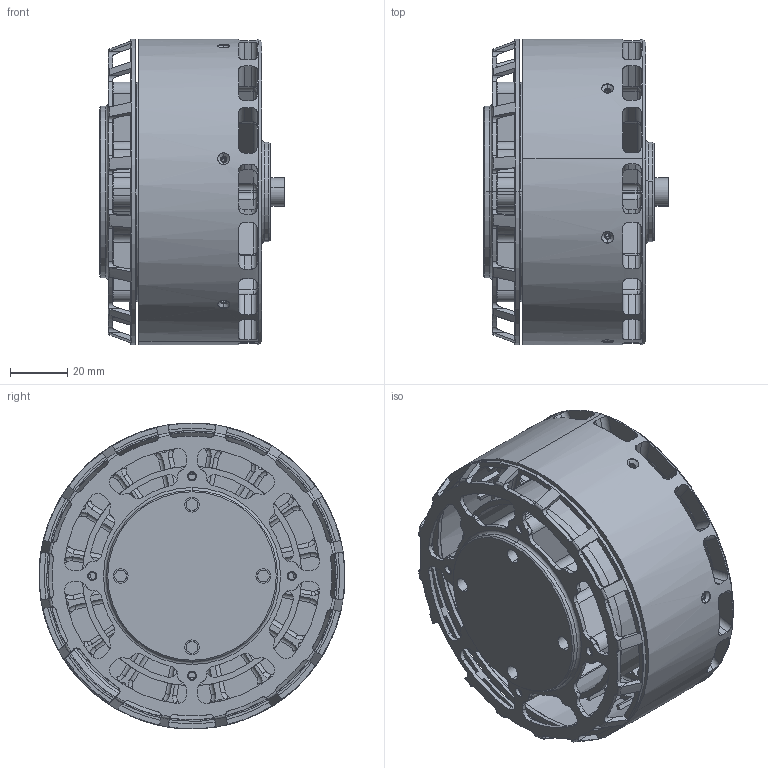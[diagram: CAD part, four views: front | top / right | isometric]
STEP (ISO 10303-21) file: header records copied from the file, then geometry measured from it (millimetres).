
FILE_DESCRIPTION (( 'STEP AP214' ), '1' );
FILE_NAME ('1040勤俋.STEP', '2025-06-30T05:56:30', ( '' ), ( '' ), 'SwSTEP 2.0', 'SolidWorks 2021', '' );
FILE_SCHEMA (( 'AUTOMOTIVE_DESIGN' ));
Length unit declared in the file: millimetre
Products named in the file (1): 1040勤俋
Bounding box: 64.8 x 107.2 x 107.2 mm (x, y, z)
Volume: 124309.9 mm3; surface area: 105683.3 mm2
Topology: 1 solids, 4 shells, 1607 faces, 4485 edges, 2854 vertices
Faces by surface type: cylinder 733, plane 463, torus 230, cone 139, bspline 42
Entity records: 75531 total; most frequent: CARTESIAN_POINT 15756, DIRECTION 9174, ORIENTED_EDGE 8906, EDGE_CURVE 4453, AXIS2_PLACEMENT_3D 3658, VERTEX_POINT 2854, CIRCLE 2092, VECTOR 1858
